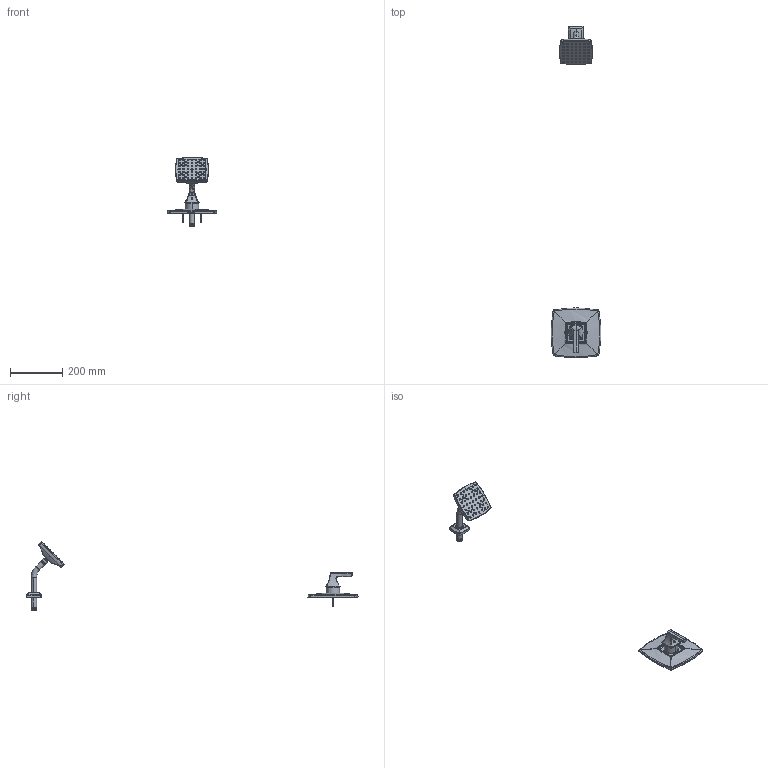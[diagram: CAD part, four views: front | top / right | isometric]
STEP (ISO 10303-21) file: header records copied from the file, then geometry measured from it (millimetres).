
FILE_DESCRIPTION (( 'STEP AP214' ), '1' );
FILE_NAME ('5691TRM.STEP', '2025-01-02T06:22:51', ( '' ), ( '' ), 'SwSTEP 2.0', 'SolidWorks 2023', '' );
FILE_SCHEMA (( 'AUTOMOTIVE_DESIGN' ));
Length unit declared in the file: metre
Products named in the file (1): 5691TRM
Bounding box: 189.52 x 1269.49 x 264.18 mm (x, y, z)
Surface area: 225659.2 mm2 (no closed solid volume)
Topology: 0 solids, 171 shells, 918 faces, 3383 edges, 2599 vertices
Faces by surface type: bspline 301, plane 260, cylinder 214, cone 108, torus 19, sphere 16
Entity records: 103090 total; most frequent: CARTESIAN_POINT 78336, ORIENTED_EDGE 4853, DIRECTION 3999, EDGE_CURVE 3379, VERTEX_POINT 2599, AXIS2_PLACEMENT_3D 1521, B_SPLINE_CURVE_WITH_KNOTS 1454, EDGE_LOOP 1148
